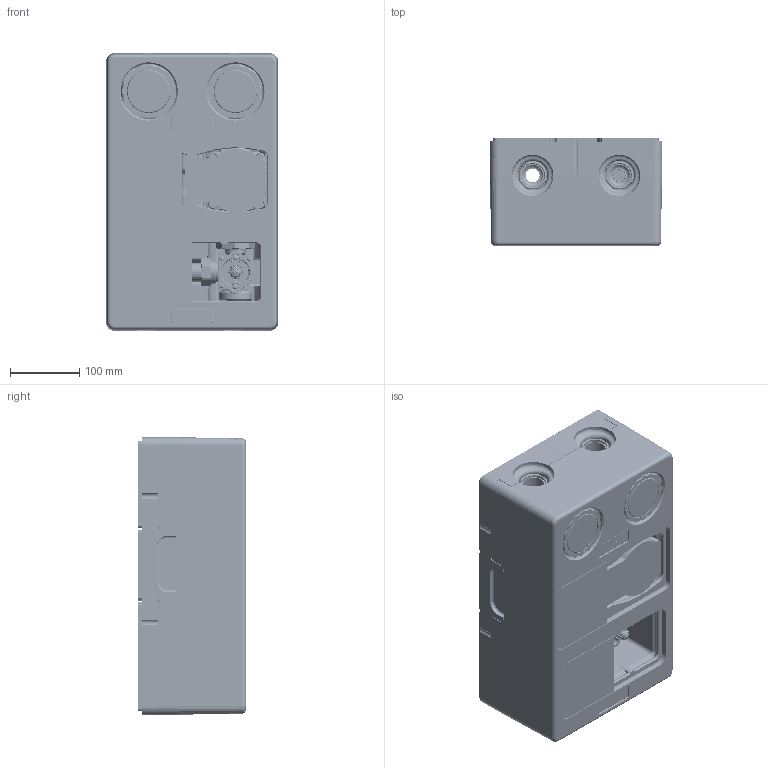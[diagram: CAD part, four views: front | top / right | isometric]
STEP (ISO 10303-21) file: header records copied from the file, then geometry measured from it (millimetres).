
FILE_DESCRIPTION (( 'STEP AP214' ), '1' );
FILE_NAME ('77840.STEP', '2022-02-17T13:08:06', ( '' ), ( '' ), 'SwSTEP 2.0', 'SolidWorks 2021', '' );
FILE_SCHEMA (( 'AUTOMOTIVE_DESIGN' ));
Length unit declared in the file: millimetre
Products named in the file (143): nach Tabelle_3-W-Mischer DN25; STEG_12; 801 024 2002_O-Ring _X_F824,0x2,0mm EPDM 70_X_B15 IRHD perox; ZYLINDER_0; STEG_9; SPINDEL_05 00 410197; 760 000 0162_Flachdichtung 44x32x2 F391_2; Part1; O-RING 8,73X1,78_801 000 0202; Ring-blau; STEG_17; Geh_X_E4use Kugelhahn m. Flansch DN 20_2; Afriso Logo; Einschraubk_X_F6rper_05 00 410483; Czêœæ1; Mitnahme-Blech_05 00 410240; teil_aus_wkz; 05 01 000393_Drehschieber DN25; STEG_5; 801 000 0202_O-Ring _X_F88,73x1,78mm EPDM 70_X_B15 I; O-RING 8,73X1,78_O-Ring 8,73x1,78_15__2; STEG_2; 760 000 0163_Flachdichtung _X_F830x23x2 F 391; 907380 0001_FKS-DIN7380_2-10.9-TX20-(A2K)-M4X12_0; STEG_25; 907380 0001_FKS-DIN7380_2-10.9-TX20-(A2K)-M4X12_0_3; STEG_21; 05 00 410222_Handrad f_X_FCr Thermometer; Tr_X_E4gerplatte neutral (60x20) wei_X_DF_05 01 0006_84; TRANSLATIONSTEIL_1_Druckbild stirnseite; BLECHLASCHE; 05 01 02 02_R_X_FCcklaufstrang DN25 gem. vormontiert; Kugeldichtung DN20 PTFE_760 000 0109_18__3; 05 01 000470 (6)_Blende TH oben; 760 000 0162_Flachdichtung 44x32x2 F391_3; Translationsteil_0_AEI Logo; STEG_16; Bedruckung; SPINDEL_05 00 410197_2; Translationsteil_1_Blende2 Stellmotor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
Assembly tree (142 placements, depth 9):
  77840
    77813_PrimoTherm 180-2 K 25 3WM-SM
      05 01 02 00 _PG DN25 gem.vorm.
        05 00 32 10_Pumpenkugelhahn VL vorm.
          05 00 410111_05 00 410111
            Einschraubk_X_F6rper_05 00 410483
            SPINDEL_05 00 410197
              SPINDEL_05 00 410197
              O-RING 8,73X1,78_801 000 0202
              O-RING 8,73X1,78_O-Ring 8,73x1,78_15_
            Kugeldichtung DN20 PTFE_760 000 0109_18_
            Kugeldichtung DN20 PTFE_760 000 0109_18__2
            KUGEL SKB Lu
              KUGEL RL_05 00 410484
            Geh_X_E4use Kugelhahn m. Flansch DN 20
          HANDRAD_05 00 410222
            HANDRAD_05 00 410222
            STEGE
            0_0_0
              0_0_0_2
                STEG
                STEG_2
                STEG_3
                0_0_0_3
                  STEG_4
                  STEG_5
              0_0_0_4
                STEG_6
                STEG_7
                STEG_8
                STEG_9
              0_0_0_5
                STEG_10
                STEG_11
                STEG_12
                STEG_13
            Tauchh_X_FClse_05 00 410223
            ZAHNSCHEIBE_906797 8400
            Mitnahme-Blech_05 00 410240
              BLECHLASCHE
        05 01 02 02_R_X_FCcklaufstrang DN25 gem. vormontiert
          05 00 410112_Pumpenkugelhahn G1iGxFl. m. SKB
            Einschraubk_X_F6rper_05 00 410483_2
            SPINDEL_05 00 410197_2
              SPINDEL_05 00 410197_2
              O-RING 8,73X1,78_801 000 0202_2
              O-RING 8,73X1,78_O-Ring 8,73x1,78_15__2
            Kugeldichtung DN20 PTFE_760 000 0109_18__3
            Kugeldichtung DN20 PTFE_760 000 0109_18__4
            Geh_X_E4use Kugelhahn m. Flansch DN 20_2
          05 00 410222_Handrad f_X_FCr Thermometer
            05 00 410222_Handrad f_X_FCr Thermometer
            STEGE_2
            0_0_0_6
              0_0_0_7
                STEG_14
                STEG_15
                STEG_16
                0_0_0_8
                  STEG_17
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Bounding box: 248.01 x 154.96 x 400.08 mm (x, y, z)
Volume: 9762625.9 mm3; surface area: 1493555.3 mm2
Topology: 211 solids, 219 shells, 10660 faces, 27110 edges, 17123 vertices
Faces by surface type: plane 4208, cylinder 3134, bspline 2531, cone 752, torus 35
Entity records: 633755 total; most frequent: CARTESIAN_POINT 291467, ORIENTED_EDGE 53866, DIRECTION 42660, EDGE_CURVE 26951, VERTEX_POINT 17124, AXIS2_PLACEMENT_3D 15142, LINE 12376, VECTOR 12376
